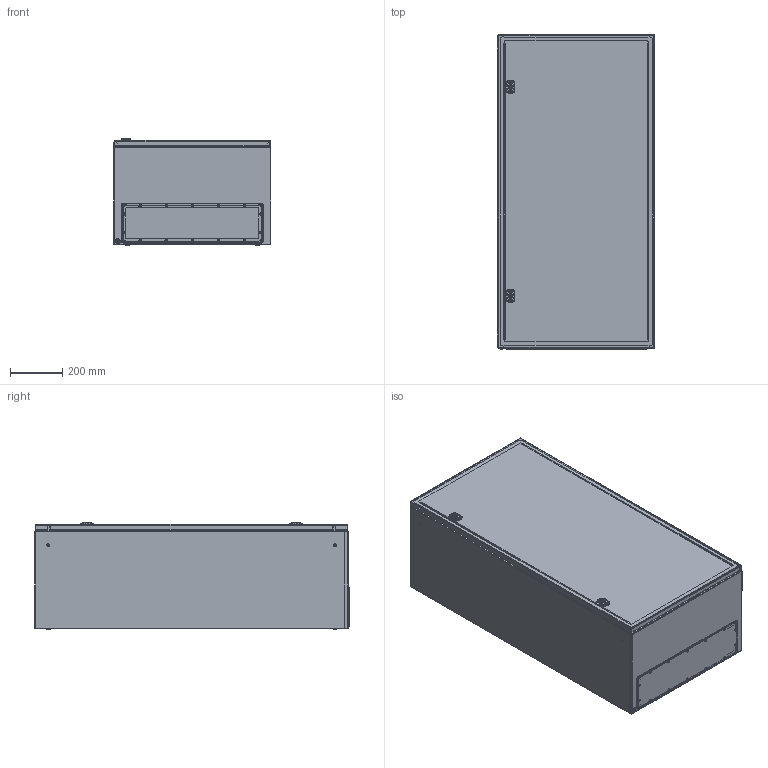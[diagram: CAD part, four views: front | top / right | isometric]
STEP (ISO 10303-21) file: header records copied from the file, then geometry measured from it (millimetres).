
FILE_DESCRIPTION (( 'STEP AP203' ), '1' );
FILE_NAME ('R5ST1264.STEP', '2022-04-28T09:02:33', ( '' ), ( '' ), 'SwSTEP 2.0', 'SolidWorks 2020', '' );
FILE_SCHEMA (( 'CONFIG_CONTROL_DESIGN' ));
Length unit declared in the file: millimetre
Products named in the file (38): TPA.08.0001.00.00.0; R5ST1264; PF 7,5x15 door ST_1200x0600; AC00C317-R; M4x10 DIN 7500 M PZ cl.4,8 Zinc_straight; RB.0048.01.02.0_-17; RB.2070.00.00.0; RB.0048.11.00.0 C縫-04; M8 DIN 6923 cl.8,0 Zinc_straight; RB.2238.00.00.0; PT Ì8õ25 cl.4.8 Cu ISO13918_straight; AC00C316-R; RB.0048.07.00.0 捘_-10; RB.2010.00.00.0_-08; M6x16 DIN 7985 PZ cl.4,8 Zinc_straight; TPA.08.0060.00.00.0 捘; TPA.08.0003.00.00.0; RB.0048.11.01.0_-04; AC00C348-R; RB.2171.00.00.0 捘; 娗p ST; RB.0048.07.01.0_-10; RB.0048.01.00.1 C縫-42; A7100032-R; Pin 1.2x12 GOST 3128-70; RB.0048.01.01.1_-42; AC00C380-R; RB.0048.08.00.0 捘_-10; RB.2237.00.00.0; RB.2171.00.01.0; RB.0048.00.02.1_-15; TPA.08.0002.00.00.0; PT Ì6õ16 Cu ISO13918_straight; M4x6 DIN 7985 PH cl.4,8 Zinc_straight; RB.0048.02.00.1 C縫-42; AC00C356-R_AC00c356(A7100031); PF 4x8 flange ST_04; AC00C343-R
Assembly tree (68 placements, depth 4):
  R5ST1264
    RB.0048.02.00.1 C縫-42
      RB.0048.01.00.1 C縫-42
        RB.0048.01.01.1_-42
        RB.0048.01.02.0_-17
        PT Ì8õ25 cl.4.8 Cu ISO13918_straight  x4
        PT Ì6õ16 Cu ISO13918_straight  x4
      AC00C317-R  x4
      AC00C316-R
      RB.2171.00.00.0 捘  x3
        RB.2171.00.01.0
        Pin 1.2x12 GOST 3128-70
      娗p ST  x3
      M4x6 DIN 7985 PH cl.4,8 Zinc_straight  x3
    RB.0048.11.00.0 C縫-04
      RB.0048.11.01.0_-04
      PF 4x8 flange ST_04
    RB.0048.08.00.0 捘_-10
      RB.0048.07.00.0 捘_-10
        RB.0048.07.01.0_-10
        RB.2237.00.00.0  x3
        RB.2010.00.00.0_-08  x2
      PF 7,5x15 door ST_1200x0600
      TPA.08.0060.00.00.0 捘  x2
        A7100032-R
        AC00C343-R
        AC00C348-R
        TPA.08.0001.00.00.0
        TPA.08.0002.00.00.0
        TPA.08.0003.00.00.0
        M6x16 DIN 7985 PZ cl.4,8 Zinc_straight
      AC00C356-R_AC00c356(A7100031)  x2
    RB.2238.00.00.0  x3
    M8 DIN 6923 cl.8,0 Zinc_straight  x4
    AC00C380-R  x2
    RB.0048.00.02.1_-15
    RB.2070.00.00.0  x4
    M4x10 DIN 7500 M PZ cl.4,8 Zinc_straight  x2
Bounding box: 602.8 x 1203.5 x 408.48 mm (x, y, z)
Volume: 5571685.1 mm3; surface area: 7777347.8 mm2
Topology: 71 solids, 71 shells, 6297 faces, 15757 edges, 9944 vertices
Faces by surface type: plane 3396, cylinder 1620, bspline 472, torus 417, cone 296, sphere 96
Entity records: 147878 total; most frequent: CARTESIAN_POINT 39482, ORIENTED_EDGE 21692, DIRECTION 20635, EDGE_CURVE 10846, VECTOR 7723, LINE 7723, VERTEX_POINT 6949, AXIS2_PLACEMENT_3D 6456
